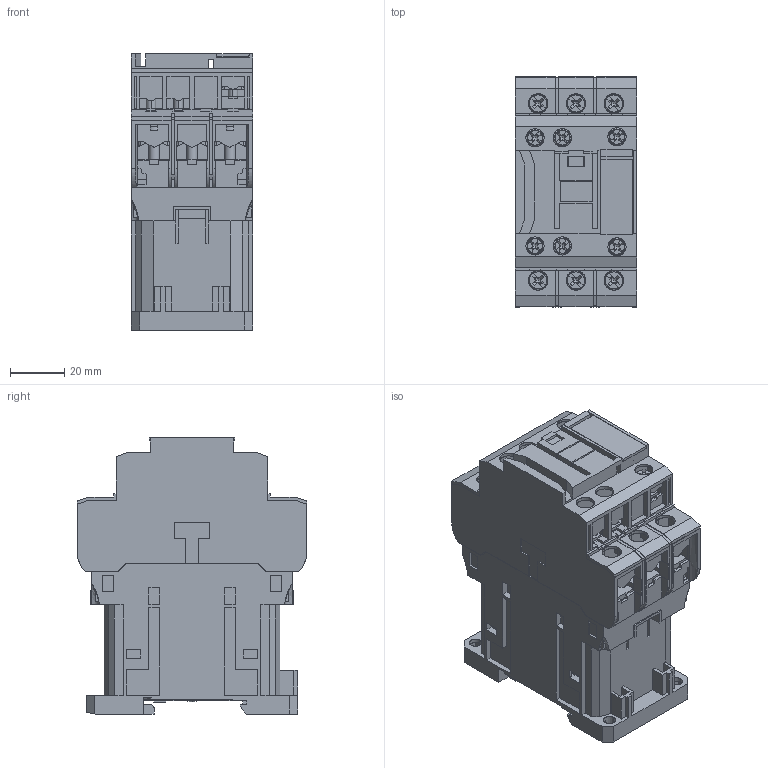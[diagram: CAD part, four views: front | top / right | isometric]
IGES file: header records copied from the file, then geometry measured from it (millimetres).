
Start section: SolidWorks IGES file using analytic representation for surfaces
Global section: file name: Q:\GROUPS\BR_SC_JGS_WA_TECNICO\ENG\Usuarios\Rodrigob\conversão\contatores\Produto\CWB25...38 DC\CWB25...38 DC.IGS; native system: SolidWorks 2012; preprocessor: SolidWorks 2012; author: rodrigob; date: 140430.152655; units: millimetre
Bounding box: 44.8 x 85 x 102.2 mm (x, y, z)
Surface area: 78944.1 mm2 (no closed solid volume)
Topology: 0 solids, 0 shells, 2484 faces, 20583 edges, 20555 vertices
Faces by surface type: bspline 1958, revolution 526
